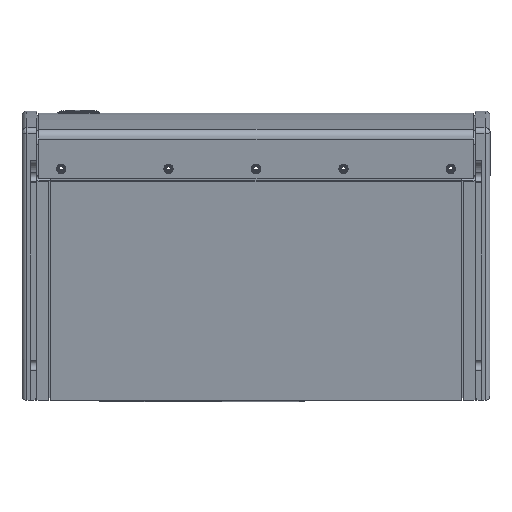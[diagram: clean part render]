
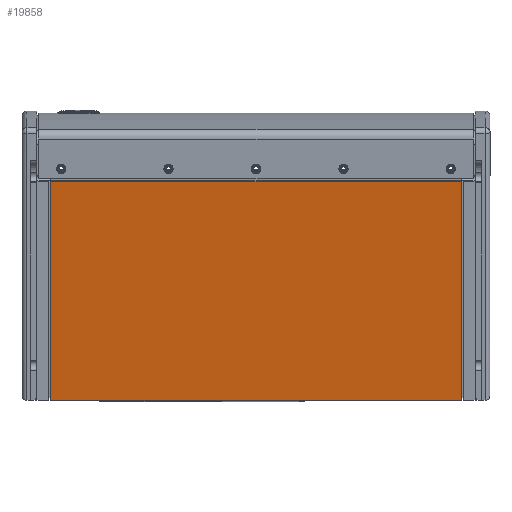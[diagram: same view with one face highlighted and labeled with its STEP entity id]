
A CAD part, front view. The second image highlights one B-rep face of the part: STEP entity #19858.
In plain terms, the highlighted planar face has unit normal (0, -0.985, -0.174) as drawn and (0, 0, -1) by its records, which use the part's own axes.
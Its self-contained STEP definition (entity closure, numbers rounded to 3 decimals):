
#121 = DIRECTION ( 'NONE',  ( 1., 0., 0. ) ) ;
#297 = CARTESIAN_POINT ( 'NONE',  ( -155.727, 261.874, -18.288 ) ) ;
#744 = CARTESIAN_POINT ( 'NONE',  ( -155.727, -261.874, -18.288 ) ) ;
#1522 = EDGE_CURVE ( 'NONE', #9577, #22850, #11838, .T. ) ;
#1866 = LINE ( 'NONE', #297, #5250 ) ;
#4092 = DIRECTION ( 'NONE',  ( 1., 0., 0. ) ) ;
#5242 = AXIS2_PLACEMENT_3D ( 'NONE', #19865, #6166, #4092 ) ;
#5250 = VECTOR ( 'NONE', #22170, 1000. ) ;
#5568 = DIRECTION ( 'NONE',  ( 0., -1., 0. ) ) ;
#5601 = VECTOR ( 'NONE', #5568, 1000. ) ;
#5958 = ORIENTED_EDGE ( 'NONE', *, *, #7380, .T. ) ;
#6166 = DIRECTION ( 'NONE',  ( 0., 0., 1. ) ) ;
#6319 = CARTESIAN_POINT ( 'NONE',  ( -155.727, 270.256, -18.288 ) ) ;
#7380 = EDGE_CURVE ( 'NONE', #11652, #9577, #1866, .T. ) ;
#8519 = EDGE_LOOP ( 'NONE', ( #5958, #12274, #17918, #21606 ) ) ;
#9577 = VERTEX_POINT ( 'NONE', #19569 ) ;
#10903 = VECTOR ( 'NONE', #121, 1000. ) ;
#10958 = VERTEX_POINT ( 'NONE', #744 ) ;
#11652 = VERTEX_POINT ( 'NONE', #17618 ) ;
#11656 = FACE_OUTER_BOUND ( 'NONE', #8519, .T. ) ;
#11838 = LINE ( 'NONE', #13798, #5601 ) ;
#12274 = ORIENTED_EDGE ( 'NONE', *, *, #1522, .T. ) ;
#13798 = CARTESIAN_POINT ( 'NONE',  ( 128.118, 270.256, -18.288 ) ) ;
#14006 = VECTOR ( 'NONE', #16245, 1000. ) ;
#16048 = LINE ( 'NONE', #23834, #10903 ) ;
#16245 = DIRECTION ( 'NONE',  ( 0., -1., 0. ) ) ;
#17618 = CARTESIAN_POINT ( 'NONE',  ( -155.727, 261.874, -18.288 ) ) ;
#17896 = CARTESIAN_POINT ( 'NONE',  ( 128.118, -261.874, -18.288 ) ) ;
#17918 = ORIENTED_EDGE ( 'NONE', *, *, #23218, .F. ) ;
#19471 = EDGE_CURVE ( 'NONE', #11652, #10958, #25611, .T. ) ;
#19569 = CARTESIAN_POINT ( 'NONE',  ( 128.118, 261.874, -18.288 ) ) ;
#19602 = PLANE ( 'NONE',  #5242 ) ;
#19858 = ADVANCED_FACE ( 'NONE', ( #11656 ), #19602, .F. ) ;
#19865 = CARTESIAN_POINT ( 'NONE',  ( 128.118, 270.256, -18.288 ) ) ;
#21606 = ORIENTED_EDGE ( 'NONE', *, *, #19471, .F. ) ;
#22170 = DIRECTION ( 'NONE',  ( 1., 0., 0. ) ) ;
#22850 = VERTEX_POINT ( 'NONE', #17896 ) ;
#23218 = EDGE_CURVE ( 'NONE', #10958, #22850, #16048, .T. ) ;
#23834 = CARTESIAN_POINT ( 'NONE',  ( -155.727, -261.874, -18.288 ) ) ;
#25611 = LINE ( 'NONE', #6319, #14006 ) ;
